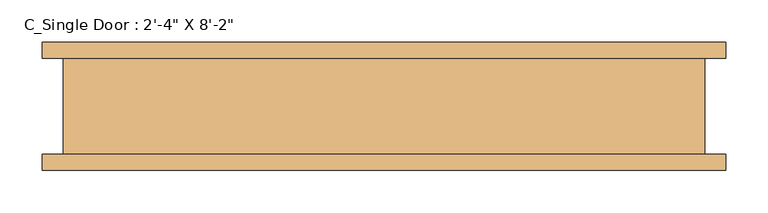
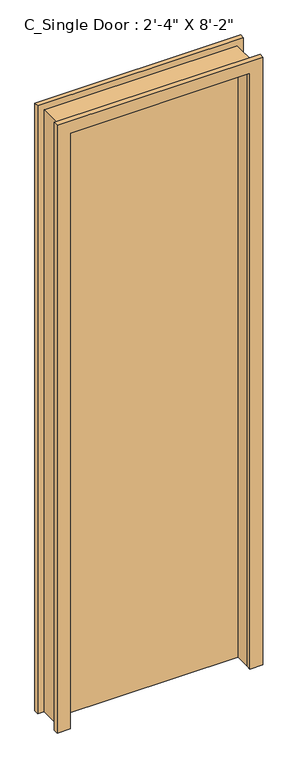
"""IFC4 building model written with IfcOpenShell, lengths in millimetres: door geometry."""

from ifc_helpers import new_model, si_unit, frame, origin, origin_with_axes, place, context, project, spatial, polyline, outline, extrude, source, transform, mapped, element, save


def door_ef8791e9(model_context):
    return source(origin(), model_context, "Body", "SweptSolid", [
        extrude(outline(polyline([(355.6, 57.15), (355.6, 6.35), (-355.6, 6.35), (-355.6, 57.15), (355.6, 57.15)])), origin_with_axes(), (0.0, 0.0, 1.0), 2489.2),
        extrude(outline(polyline([(2489.2, -355.6), (2489.2, 355.6), (0.0, 355.6), (0.0, 406.4), (2540.0, 406.4), (2540.0, -406.4), (0.0, -406.4), (0.0, -355.6), (2489.2, -355.6)])), frame((0.0, 57.15, 0.0), z_axis=(0.0, 1.0, 0.0), x_axis=(0.0, 0.0, 1.0)), (0.0, 0.0, 1.0), 19.05),
        extrude(outline(polyline([(2489.2, -355.6), (2489.2, 355.6), (0.0, 355.6), (0.0, 406.4), (2540.0, 406.4), (2540.0, -406.4), (0.0, -406.4), (0.0, -355.6), (2489.2, -355.6)])), frame((0.0, -76.2, 0.0), z_axis=(0.0, 1.0, 0.0), x_axis=(0.0, 0.0, 1.0)), (0.0, 0.0, 1.0), 19.05),
        extrude(outline(polyline([(0.0, -355.6), (2489.2, -355.6), (2489.2, 355.6), (0.0, 355.6), (0.0, 381.0), (2514.6, 381.0), (2514.6, -381.0), (0.0, -381.0), (0.0, -355.6)])), frame((0.0, -57.15, 0.0), z_axis=(0.0, 1.0, 0.0), x_axis=(0.0, 0.0, 1.0)), (0.0, 0.0, 1.0), 114.3),
    ])


if __name__ == "__main__":
    model = new_model("IFC4")
    model_context = context("Model", 3, world=origin())
    ifc_project = project(units=[si_unit("LENGTHUNIT", "METRE", prefix="MILLI")], contexts=[model_context])
    site = spatial("IfcSite", under=ifc_project)
    building = spatial("IfcBuilding", under=site)
    placement = place(None, origin())
    door_shape = door_ef8791e9(model_context)
    element("IfcDoor", 1, ObjectType="C_Single Door : 2'-4\" X 8'-2\"", at=placement, inside=building, context=model_context, shape_type="MappedRepresentation", body=[
        mapped(door_shape, transform((0.0, 0.0, 0.0), x_axis=(1.0, 0.0, 0.0), y_axis=(0.0, 1.0, 0.0), z_axis=(0.0, 0.0, 1.0))),
    ])
    save(model, "model.ifc")
